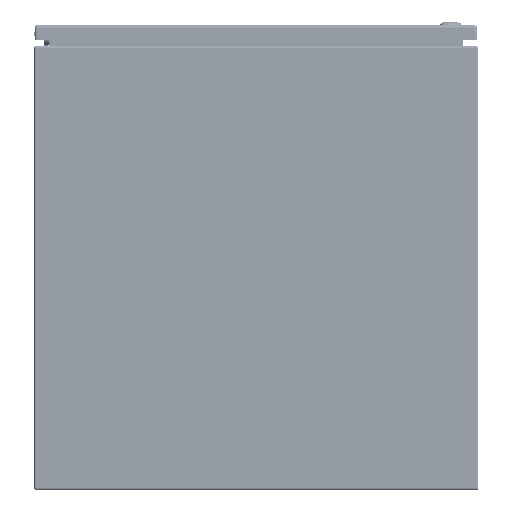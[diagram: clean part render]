
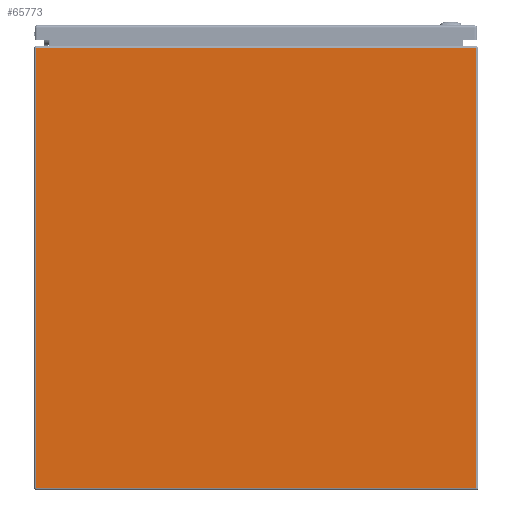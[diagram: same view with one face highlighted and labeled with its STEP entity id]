
A CAD part, front view. The second image highlights one B-rep face of the part: STEP entity #65773.
In plain terms, the highlighted planar face has unit normal (0, -1, 0).
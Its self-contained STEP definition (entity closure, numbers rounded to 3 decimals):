
#6386=LINE('',#92338,#10447);
#6389=LINE('',#92360,#10450);
#6390=LINE('',#92362,#10451);
#6391=LINE('',#92363,#10452);
#10447=VECTOR('',#76589,0.394);
#10450=VECTOR('',#76620,0.394);
#10451=VECTOR('',#76621,0.394);
#10452=VECTOR('',#76622,0.394);
#15537=FACE_OUTER_BOUND('',#19572,.T.);
#19572=EDGE_LOOP('',(#43775,#43776,#43777,#43778));
#26394=VERTEX_POINT('',#92327);
#26397=VERTEX_POINT('',#92337);
#26402=VERTEX_POINT('',#92359);
#26403=VERTEX_POINT('',#92361);
#33121=EDGE_CURVE('',#26394,#26397,#6386,.T.);
#33132=EDGE_CURVE('',#26402,#26394,#6389,.T.);
#33133=EDGE_CURVE('',#26402,#26403,#6390,.T.);
#33134=EDGE_CURVE('',#26397,#26403,#6391,.T.);
#43775=ORIENTED_EDGE('',*,*,#33121,.F.);
#43776=ORIENTED_EDGE('',*,*,#33132,.F.);
#43777=ORIENTED_EDGE('',*,*,#33133,.T.);
#43778=ORIENTED_EDGE('',*,*,#33134,.F.);
#64375=PLANE('',#70693);
#65773=ADVANCED_FACE('',(#15537),#64375,.T.);
#70693=AXIS2_PLACEMENT_3D('',#92358,#76618,#76619);
#76589=DIRECTION('',(1.,0.,0.));
#76618=DIRECTION('center_axis',(0.,-1.,0.));
#76619=DIRECTION('ref_axis',(-1.,0.,0.));
#76620=DIRECTION('',(0.,0.,1.));
#76621=DIRECTION('',(1.,0.,0.));
#76622=DIRECTION('',(0.,0.,-1.));
#92327=CARTESIAN_POINT('',(-11.901,-15.,23.901));
#92337=CARTESIAN_POINT('',(11.901,-15.,23.901));
#92338=CARTESIAN_POINT('',(0.025,-15.,23.901));
#92358=CARTESIAN_POINT('Origin',(12.,-15.,24.));
#92359=CARTESIAN_POINT('',(-11.901,-15.,0.099));
#92360=CARTESIAN_POINT('',(-11.901,-15.,12.));
#92361=CARTESIAN_POINT('',(11.901,-15.,0.099));
#92362=CARTESIAN_POINT('',(-5.951,-15.,0.099));
#92363=CARTESIAN_POINT('',(11.901,-15.,12.));
